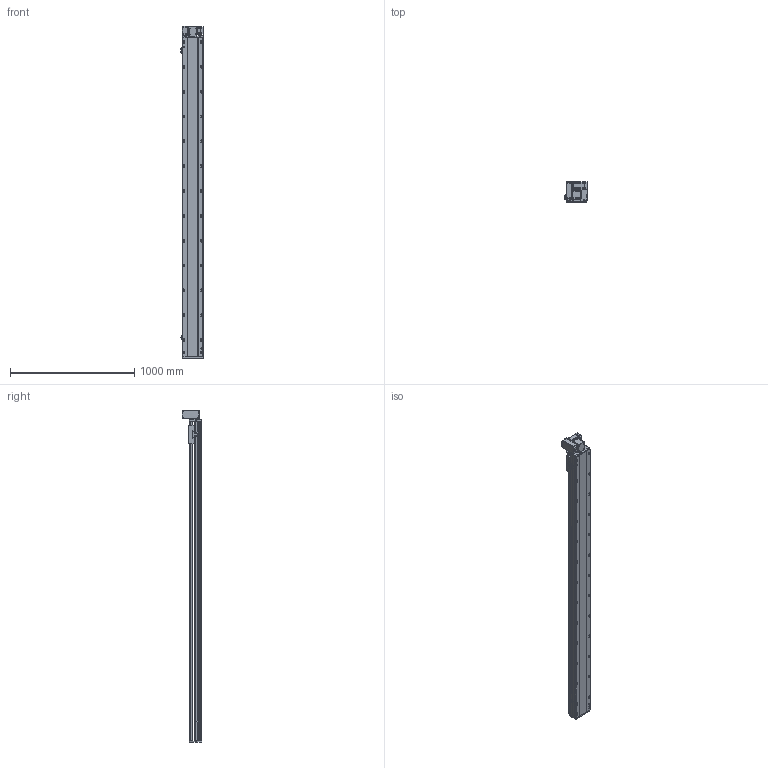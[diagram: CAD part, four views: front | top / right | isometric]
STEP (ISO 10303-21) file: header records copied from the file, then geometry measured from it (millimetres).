
FILE_DESCRIPTION (( 'STEP AP214' ), '1' );
FILE_NAME ('RTB17S-XX-2300-LW-M40-C4.STEP', '2025-12-11T07:14:58', ( '' ), ( '' ), 'SwSTEP 2.0', 'SolidWorks 2018', '' );
FILE_SCHEMA (( 'AUTOMOTIVE_DESIGN' ));
Length unit declared in the file: millimetre
Products named in the file (14): RTB17-R-011菁釱^RTB17S-XX-XX-LW-M40-C4; OMRON EE-SX672 传感器^RTB17S-XX-XX-LW-M40-C4; RTB17S-L-007奻裔^RTB17S-XX-XX-LW-M40-C4; RTB14-L-008-M20--萇儂啣^RTB17S-LW-々湍釱蚾饜-400W_RTB17S-XX-XX-LW-M40-C4; RTH13-BL-012覜茼え俋离^RTB17S-XX-XX-LW-M40-C4; RTB17S-L-004佪裝蹟譫蟀諉釱^RTB17S-XX-XX-LW-M40-C4; RTB14-L-018P^RTB17S-LW-々湍釱蚾饜-400W_RTB17S-XX-XX-LW-M40-C4; RTB14-L-005P--轴承塑胶压盖^RTB17S-LW-皮带座装配-400W_RTB17S-XX-XX-LW-M40-C4; RTB17S-LW-々湍釱蚾饜-400W^RTB17S-XX-XX-LW-M40-C4; 400W侜督萇儂^RTB17S-XX-XX-LW-M40-C4; RTB14-L-017P^RTB17S-LW-々湍釱蚾饜-400W_RTB17S-XX-XX-LW-M40-C4; RTB17S-L-014-T20--々湍釱^RTB17S-LW-々湍釱蚾饜-400W_RTB17S-XX-XX-LW-M40-C4; RTB17S-L-001耜醱啣^RTB17S-XX-XX-LW-M40-C4; RTB17S-XX-2300-LW-M40-C4
Assembly tree (16 placements, depth 3):
  RTB17S-XX-2300-LW-M40-C4
    RTB17-R-011菁釱^RTB17S-XX-XX-LW-M40-C4
    RTB17S-L-007奻裔^RTB17S-XX-XX-LW-M40-C4
    OMRON EE-SX672 传感器^RTB17S-XX-XX-LW-M40-C4  x3
    RTB17S-L-001耜醱啣^RTB17S-XX-XX-LW-M40-C4
    400W侜督萇儂^RTB17S-XX-XX-LW-M40-C4
    RTB17S-L-004佪裝蹟譫蟀諉釱^RTB17S-XX-XX-LW-M40-C4
    RTH13-BL-012覜茼え俋离^RTB17S-XX-XX-LW-M40-C4
    RTB17S-LW-々湍釱蚾饜-400W^RTB17S-XX-XX-LW-M40-C4
      RTB17S-L-014-T20--々湍釱^RTB17S-LW-々湍釱蚾饜-400W_RTB17S-XX-XX-LW-M40-C4
      RTB14-L-005P--轴承塑胶压盖^RTB17S-LW-皮带座装配-400W_RTB17S-XX-XX-LW-M40-C4
      RTB14-L-008-M20--萇儂啣^RTB17S-LW-々湍釱蚾饜-400W_RTB17S-XX-XX-LW-M40-C4
      RTB14-L-017P^RTB17S-LW-々湍釱蚾饜-400W_RTB17S-XX-XX-LW-M40-C4  x2
      RTB14-L-018P^RTB17S-LW-々湍釱蚾饜-400W_RTB17S-XX-XX-LW-M40-C4
Bounding box: 186 x 160.5 x 2672.5 mm (x, y, z)
Volume: 22973120.9 mm3; surface area: 2655042.9 mm2
Topology: 15 solids, 15 shells, 2317 faces, 6465 edges, 4221 vertices
Faces by surface type: plane 1082, cylinder 787, bspline 301, cone 139, torus 8
Entity records: 68009 total; most frequent: CARTESIAN_POINT 19270, ORIENTED_EDGE 9774, DIRECTION 9026, EDGE_CURVE 4887, VERTEX_POINT 3209, AXIS2_PLACEMENT_3D 3139, VECTOR 2748, LINE 2748
